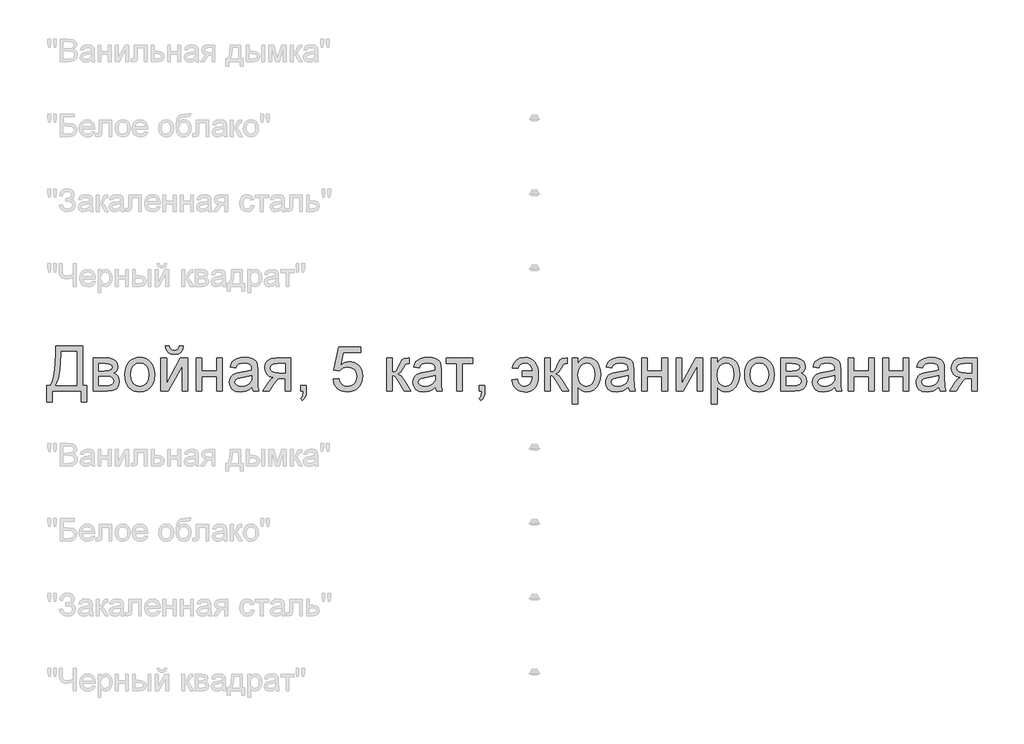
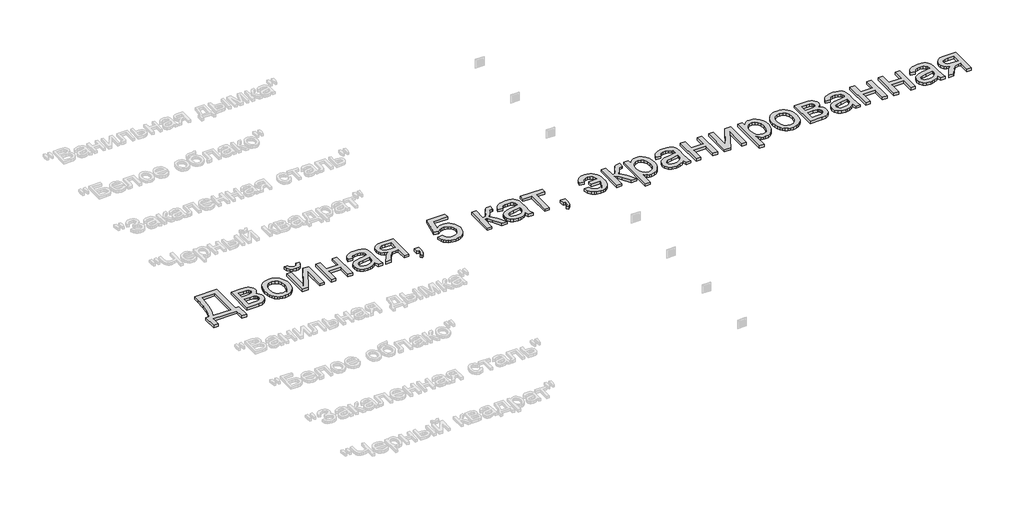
# One storey, part 168 of 168: 1 proxy.
"""IFC4 building model written with IfcOpenShell, lengths in millimetres."""

from ifc_helpers import new_model, si_unit, origin, origin_with_axes, place, context, project, spatial, polyline, outline, extrude, element, save

model = new_model("IFC4")

# Units and contexts
model_context = context("Model", 3, world=origin())
ifc_project = project(units=[si_unit("LENGTHUNIT", "METRE", prefix="MILLI")], contexts=[model_context])

# Site, building, storey
site = spatial("IfcSite", under=ifc_project)
building = spatial("IfcBuilding", under=site)
storey = spatial("IfcBuildingStorey", under=building, Name="Этаж 01", Elevation=0.0)

# Proxy
placement = place(None, origin())
element("IfcBuildingElementProxy", 1, Name="300 мм Arial 2", ObjectType="300 мм Arial 2", at=placement, inside=storey, context=model_context, shape_type="SweptSolid", body=[
    extrude(outline(polyline([(77327.3478389, -11147.0367511), (77506.2856413, -11147.0367511), (77506.2856413, -11410.7345653), (77534.5389786, -11410.7345653), (77534.5389786, -11519.0390246), (77496.8678623, -11519.0390246), (77496.8678623, -11448.4056816), (77303.8033912, -11448.4056816), (77303.8033912, -11519.0390246), (77266.1322749, -11519.0390246), (77266.1322749, -11410.7345653), (77289.6767226, -11410.7345653), (77306.157836, -11376.5629264), (77317.9300598, -11328.4945452), (77324.9933941, -11266.5294217), (77327.3478389, -11190.6675557), (77327.3478389, -11147.0367511)]), holes=[polyline([(77468.614525, -11184.7078674), (77365.0189552, -11184.7078674), (77365.0189552, -11199.8646056), (77357.3670097, -11303.0922935), (77346.0362442, -11362.744359), (77327.3478389, -11410.7345653), (77468.614525, -11410.7345653), (77468.614525, -11184.7078674)])]), origin_with_axes(), (0.0, 0.0, 1.0), 20.0),
    extrude(outline(polyline([(77576.9189844, -11227.0878733), (77659.9131625, -11227.0878733), (77686.5938042, -11228.3478691), (77705.4201653, -11232.1278566), (77719.2709224, -11239.2647673), (77731.0247522, -11250.5955328), (77739.0537767, -11265.3567978), (77741.7301183, -11282.7852073), (77740.1114375, -11296.8291025), (77735.2553951, -11308.9416172), (77727.1435971, -11319.1779337), (77715.7576494, -11327.5932344), (77729.700377, -11335.4199238), (77741.0679307, -11348.0106851), (77748.6279057, -11364.3722368), (77751.1478973, -11383.5112976), (77744.7651447, -11412.2244873), (77729.5900124, -11432.439603), (77705.5673181, -11444.4141619), (77672.6418796, -11448.4056816), (77576.9189844, -11448.4056816), (77576.9189844, -11227.0878733)]), holes=[polyline([(77614.5901007, -11311.847885), (77651.8197586, -11311.847885), (77682.5379052, -11309.9348986), (77697.4739142, -11302.2829531), (77702.41273, -11295.9553828), (77704.0590019, -11288.4505901), (77701.1711283, -11277.2117951), (77692.5075073, -11269.9829139), (77676.8541284, -11266.0649707), (77652.996981, -11264.7589896), (77614.5901007, -11264.7589896), (77614.5901007, -11311.847885)]), polyline([(77614.5901007, -11410.7345653), (77660.7960793, -11410.7345653), (77685.9776019, -11409.033111), (77701.7781336, -11403.9287484), (77710.2578136, -11394.648925), (77713.476781, -11380.4210889), (77711.8672973, -11370.9941127), (77707.0388461, -11362.2845065), (77699.6260239, -11355.4694925), (77690.2634271, -11351.7262932), (77657.1172594, -11349.5190013), (77614.5901007, -11349.5190013), (77614.5901007, -11410.7345653)])]), origin_with_axes(), (0.0, 0.0, 1.0), 20.0),
    extrude(outline(polyline([(77788.8190136, -11337.7467774), (77790.8561602, -11309.0841715), (77796.9675998, -11284.385494), (77807.1533326, -11263.6507451), (77821.4133584, -11246.8799246), (77835.7699533, -11236.160763), (77851.6164702, -11228.504219), (77868.9529092, -11223.9102925), (77887.7792703, -11222.3789837), (77908.5623038, -11224.2436856), (77927.354176, -11229.8377912), (77944.1548868, -11239.1613005), (77958.9644364, -11252.2142135), (77971.0516592, -11268.5550719), (77979.6853898, -11287.7424172), (77984.8656281, -11309.7762495), (77986.5923742, -11334.6565687), (77983.5389537, -11372.7139611), (77974.378692, -11401.6846682), (77959.3783037, -11423.3805088), (77938.8045031, -11439.6133019), (77914.3679415, -11449.7392538), (77887.7792703, -11453.1145711), (77866.6927342, -11451.256767), (77847.7261181, -11445.6833548), (77830.879422, -11436.3943344), (77816.1526459, -11423.3897059), (77804.1941818, -11406.8901984), (77795.6524217, -11387.1165412), (77790.5273657, -11364.0687342), (77788.8190136, -11337.7467774)]), holes=[polyline([(77826.4901299, -11337.673201), (77830.8495316, -11371.7666649), (77843.9277365, -11396.0560737), (77863.6094233, -11410.5966095), (77887.7792703, -11415.4434548), (77911.8387528, -11410.5690184), (77931.4836514, -11395.9457091), (77944.5618563, -11371.3344036), (77948.9212579, -11336.4959786), (77944.5342651, -11303.3957961), (77931.3732868, -11279.4374812), (77911.7007971, -11264.8969453), (77887.7792703, -11260.0501), (77863.6094233, -11264.8785512), (77843.9277365, -11279.3639048), (77830.8495316, -11303.5981312), (77826.4901299, -11337.673201)])]), origin_with_axes(), (0.0, 0.0, 1.0), 20.0),
    extrude(outline(polyline([(78028.9723801, -11227.0878733), (78066.6434964, -11227.0878733), (78066.6434964, -11395.8721327), (78159.2026064, -11227.0878733), (78207.9101825, -11227.0878733), (78207.9101825, -11448.4056816), (78170.2390662, -11448.4056816), (78170.2390662, -11280.6514918), (78078.2685674, -11448.4056816), (78028.9723801, -11448.4056816), (78028.9723801, -11227.0878733)])), origin_with_axes(), (0.0, 0.0, 1.0), 20.0),
    extrude(outline(polyline([(78151.4035081, -11147.0367511), (78179.6568453, -11147.0367511), (78173.5775953, -11171.160613), (78161.3731102, -11188.9385104), (78143.5952127, -11199.8921968), (78120.7957261, -11203.5434256), (78096.0556619, -11199.9197879), (78076.8706159, -11189.048875), (78063.7556227, -11171.2985687), (78057.2257173, -11147.0367511), (78085.4790545, -11147.0367511), (78089.4521801, -11159.4435714), (78096.074056, -11168.2635422), (78105.3814705, -11173.5334518), (78117.4112117, -11175.2900883), (78130.9860574, -11173.5886341), (78140.8085066, -11168.4842714), (78147.4303825, -11159.7194829), (78151.4035081, -11147.0367511)])), origin_with_axes(), (0.0, 0.0, 1.0), 20.0),
    extrude(outline(polyline([(78264.416857, -11227.0878733), (78302.0879733, -11227.0878733), (78302.0879733, -11311.847885), (78400.9746536, -11311.847885), (78400.9746536, -11227.0878733), (78438.6457699, -11227.0878733), (78438.6457699, -11448.4056816), (78400.9746536, -11448.4056816), (78400.9746536, -11349.5190013), (78302.0879733, -11349.5190013), (78302.0879733, -11448.4056816), (78264.416857, -11448.4056816), (78264.416857, -11227.0878733)])), origin_with_axes(), (0.0, 0.0, 1.0), 20.0),
    extrude(outline(polyline([(78636.4191305, -11420.1523443), (78618.4205039, -11435.584994), (78599.8884484, -11445.6833548), (78580.3998997, -11451.256767), (78559.5317935, -11453.1145711), (78528.0502918, -11448.6448049), (78504.8277408, -11435.2355061), (78490.5079342, -11414.8732377), (78485.7346653, -11389.5445623), (78487.5372871, -11373.9279716), (78492.9451524, -11359.7461207), (78501.2868766, -11347.6060149), (78511.8910752, -11338.1146594), (78538.2682142, -11325.7538244), (78570.862559, -11320.0884417), (78609.3798039, -11314.1287533), (78636.1984013, -11307.1389954), (78636.4191305, -11298.7512859), (78633.8255625, -11281.9390788), (78626.0448583, -11270.9394071), (78608.6440399, -11262.7724268), (78584.4006164, -11260.0501), (78561.9598147, -11261.8619189), (78546.2880417, -11267.2973753), (78535.6010697, -11277.3497509), (78528.1146711, -11293.0123268), (78490.4435548, -11288.3034373), (78496.9826573, -11267.7020455), (78506.7407272, -11251.5152378), (78520.6282725, -11239.1360086), (78539.5558012, -11229.9573528), (78562.7047757, -11224.273576), (78589.2566587, -11222.3789837), (78614.7232899, -11224.0528468), (78634.9108143, -11229.074436), (78650.1319319, -11236.625214), (78660.6993422, -11245.8866432), (78667.7074942, -11257.3369703), (78672.2508369, -11271.4544419), (78674.0902468, -11304.4166687), (78674.0902468, -11351.2848348), (78676.0032332, -11416.7310418), (78683.5080259, -11448.4056816), (78645.8369096, -11448.4056816), (78636.4191305, -11420.1523443)]), holes=[polyline([(78636.4191305, -11344.8101117), (78575.6450249, -11356.3616064), (78543.2346211, -11362.4684475), (78528.5561295, -11372.4012614), (78523.4057816, -11386.895812), (78526.2108818, -11398.0978187), (78534.6261825, -11407.2764745), (78548.4677425, -11413.4017097), (78567.551621, -11415.4434548), (78587.7851308, -11413.1901776), (78605.6641957, -11406.4303459), (78620.1587463, -11396.4699409), (78630.238713, -11384.6149436), (78634.7084792, -11372.4012614), (78636.1984013, -11355.4786896), (78636.4191305, -11344.8101117)])]), origin_with_axes(), (0.0, 0.0, 1.0), 20.0),
    extrude(outline(polyline([(78895.4080551, -11227.0878733), (78895.4080551, -11448.4056816), (78857.7369388, -11448.4056816), (78857.7369388, -11363.6456699), (78837.2091235, -11363.6456699), (78809.2500919, -11368.4281358), (78798.0848733, -11378.8575904), (78782.9833174, -11400.5810222), (78752.9641466, -11448.4056816), (78709.4069184, -11448.4056816), (78747.2251875, -11387.9258816), (78763.9270301, -11366.2208438), (78779.3044975, -11356.5823356), (78753.5527578, -11348.6912668), (78735.4529636, -11333.7000755), (78724.7475976, -11313.7608713), (78721.1791422, -11291.025764), (78726.0535786, -11265.2372362), (78740.676888, -11244.8197854), (78764.5340353, -11231.5208513), (78797.109986, -11227.0878733), (78895.4080551, -11227.0878733)]), holes=[polyline([(78857.7369388, -11264.7589896), (78808.0728695, -11264.7589896), (78782.4222974, -11266.9386904), (78767.8633674, -11273.4777929), (78761.1035357, -11282.9415572), (78758.8502585, -11293.8952436), (78762.1703935, -11308.2518385), (78772.1307985, -11318.2122435), (78790.5340954, -11324.033976), (78819.1829057, -11325.9745536), (78857.7369388, -11325.9745536), (78857.7369388, -11264.7589896)])]), origin_with_axes(), (0.0, 0.0, 1.0), 20.0),
    extrude(outline(polyline([(78961.3325087, -11448.4056816), (78961.3325087, -11410.7345653), (78999.003625, -11410.7345653), (78999.003625, -11448.4056816), (78997.3113678, -11469.9543694), (78992.2345963, -11486.9229265), (78983.4790048, -11499.936752), (78970.7502877, -11509.6212456), (78961.3325087, -11495.494577), (78969.499489, -11488.6703659), (78975.1648717, -11479.2341928), (78980.0944904, -11448.4056816), (78961.3325087, -11448.4056816)])), origin_with_axes(), (0.0, 0.0, 1.0), 20.0),
    extrude(outline(polyline([(79177.9414274, -11368.3545594), (79215.6125437, -11363.6456699), (79222.5287252, -11386.2612155), (79234.5952547, -11402.4572204), (79251.7569498, -11412.1968962), (79273.9586282, -11415.4434548), (79300.9611666, -11410.9277033), (79321.1946763, -11397.3804488), (79333.8314229, -11376.3651899), (79338.0436717, -11349.4454249), (79334.0981373, -11324.0983554), (79322.2615341, -11304.7109743), (79302.4418916, -11292.4053215), (79274.5472394, -11288.3034373), (79256.2727012, -11289.9405121), (79241.474648, -11294.8517368), (79220.3214333, -11311.847885), (79182.650317, -11307.1389954), (79215.6125437, -11151.7456407), (79361.5881194, -11151.7456407), (79361.5881194, -11189.416757), (79246.0731729, -11189.416757), (79229.9599415, -11272.4109351), (79256.8705095, -11256.0769745), (79285.0686644, -11250.632321), (79303.4144797, -11252.3199796), (79320.2657743, -11257.3829556), (79335.6225483, -11265.8212488), (79349.4848018, -11277.6348594), (79360.9604208, -11292.1018189), (79369.1572915, -11308.5001588), (79374.0754139, -11326.8298792), (79375.714788, -11347.0909801), (79369.810282, -11384.7620964), (79362.4296495, -11401.5559095), (79352.0967639, -11416.9885592), (79336.443385, -11432.7936894), (79318.178044, -11444.0830681), (79297.3007408, -11450.8566954), (79273.8114754, -11453.1145711), (79236.8117437, -11447.3112326), (79221.1330729, -11440.0570595), (79207.3351988, -11429.9012172), (79195.8549813, -11417.3495434), (79187.1292803, -11402.9078758), (79177.9414274, -11368.3545594)])), origin_with_axes(), (0.0, 0.0, 1.0), 20.0),
    extrude(outline(polyline([(79535.8170323, -11227.0878733), (79573.4881486, -11227.0878733), (79573.4881486, -11321.265664), (79588.8104337, -11319.5734069), (79598.7248535, -11314.4966353), (79607.4988391, -11301.2528835), (79619.3998216, -11275.0596854), (79636.5799108, -11241.0306009), (79651.736649, -11229.9573528), (79679.2910105, -11227.0878733), (79686.5014976, -11227.0878733), (79686.5014976, -11264.9797188), (79676.3479545, -11264.7589896), (79657.9538547, -11268.7321151), (79645.0044085, -11293.5273616), (79629.8108821, -11320.345959), (79608.5105146, -11333.4793463), (79620.4482853, -11338.7814455), (79632.2756915, -11348.1394438), (79655.59941, -11379.0231373), (79695.9192766, -11448.4056816), (79653.0978124, -11448.4056816), (79613.5872861, -11380.4946653), (79593.7216584, -11351.7630814), (79584.432638, -11346.5483542), (79573.4881486, -11344.8101117), (79573.4881486, -11448.4056816), (79535.8170323, -11448.4056816), (79535.8170323, -11227.0878733)])), origin_with_axes(), (0.0, 0.0, 1.0), 20.0),
    extrude(outline(polyline([(79860.7304105, -11420.1523443), (79842.7317839, -11435.584994), (79824.1997284, -11445.6833548), (79804.7111797, -11451.256767), (79783.8430735, -11453.1145711), (79752.3615717, -11448.6448049), (79729.1390208, -11435.2355061), (79714.8192141, -11414.8732377), (79710.0459452, -11389.5445623), (79711.848567, -11373.9279716), (79717.2564324, -11359.7461207), (79725.5981566, -11347.6060149), (79736.2023551, -11338.1146594), (79762.5794942, -11325.7538244), (79795.1738389, -11320.0884417), (79833.6910838, -11314.1287533), (79860.5096813, -11307.1389954), (79860.7304105, -11298.7512859), (79858.1368424, -11281.9390788), (79850.3561382, -11270.9394071), (79832.9553198, -11262.7724268), (79808.7118964, -11260.0501), (79786.2710946, -11261.8619189), (79770.5993217, -11267.2973753), (79759.9123497, -11277.3497509), (79752.4259511, -11293.0123268), (79714.7548348, -11288.3034373), (79721.2939373, -11267.7020455), (79731.0520072, -11251.5152378), (79744.9395525, -11239.1360086), (79763.8670811, -11229.9573528), (79787.0160557, -11224.273576), (79813.5679387, -11222.3789837), (79839.0345698, -11224.0528468), (79859.2220943, -11229.074436), (79874.4432118, -11236.625214), (79885.0106222, -11245.8866432), (79892.0187742, -11257.3369703), (79896.5621168, -11271.4544419), (79898.4015268, -11304.4166687), (79898.4015268, -11351.2848348), (79900.3145132, -11416.7310418), (79907.8193059, -11448.4056816), (79870.1481895, -11448.4056816), (79860.7304105, -11420.1523443)]), holes=[polyline([(79860.7304105, -11344.8101117), (79799.9563049, -11356.3616064), (79767.5459011, -11362.4684475), (79752.8674095, -11372.4012614), (79747.7170616, -11386.895812), (79750.5221618, -11398.0978187), (79758.9374624, -11407.2764745), (79772.7790225, -11413.4017097), (79791.862901, -11415.4434548), (79812.0964107, -11413.1901776), (79829.9754757, -11406.4303459), (79844.4700263, -11396.4699409), (79854.549993, -11384.6149436), (79859.0197592, -11372.4012614), (79860.5096813, -11355.4786896), (79860.7304105, -11344.8101117)])]), origin_with_axes(), (0.0, 0.0, 1.0), 20.0),
    extrude(outline(polyline([(79931.3637535, -11227.0878733), (80110.301556, -11227.0878733), (80110.301556, -11264.7589896), (80039.6682129, -11264.7589896), (80039.6682129, -11448.4056816), (80001.9970966, -11448.4056816), (80001.9970966, -11264.7589896), (79931.3637535, -11264.7589896), (79931.3637535, -11227.0878733)])), origin_with_axes(), (0.0, 0.0, 1.0), 20.0),
    extrude(outline(polyline([(80152.6815618, -11448.4056816), (80152.6815618, -11410.7345653), (80190.3526782, -11410.7345653), (80190.3526782, -11448.4056816), (80188.660421, -11469.9543694), (80183.5836494, -11486.9229265), (80174.828058, -11499.936752), (80162.0993409, -11509.6212456), (80152.6815618, -11495.494577), (80160.8485421, -11488.6703659), (80166.5139249, -11479.2341928), (80171.4435436, -11448.4056816), (80152.6815618, -11448.4056816)])), origin_with_axes(), (0.0, 0.0, 1.0), 20.0),
    extrude(outline(polyline([(80439.9238237, -11311.847885), (80510.5571668, -11311.847885), (80504.7538283, -11290.9797788), (80493.5242304, -11274.4342861), (80477.604137, -11263.6461465), (80457.7293122, -11260.0501), (80440.5860113, -11262.4045448), (80427.1951066, -11269.4678791), (80417.5565984, -11281.240103), (80411.6704864, -11297.7212163), (80373.9993701, -11293.0123268), (80382.7825528, -11264.7313984), (80399.8614744, -11242.1342469), (80424.3716123, -11227.3177995), (80455.4484439, -11222.3789837), (80475.8038145, -11224.3011672), (80493.9013094, -11230.0677174), (80509.7409286, -11239.6786346), (80523.322672, -11253.1339185), (80534.2188768, -11269.9553228), (80542.0018803, -11289.6646007), (80546.6716824, -11312.2617522), (80548.2282831, -11337.7467774), (80547.2373009, -11362.9558911), (80543.0871322, -11385.608225), (80535.7777768, -11405.703779), (80525.3092348, -11423.2425531), (80512.0217969, -11437.3048424), (80496.2557542, -11446.9709418), (80478.0111065, -11452.2408514), (80457.2878539, -11453.1145711), (80423.8841687, -11447.6055382), (80409.8310765, -11440.7192471), (80397.5438178, -11431.0784396), (80379.0761417, -11405.5566262), (80369.2904806, -11373.063449), (80406.9615969, -11368.3545594), (80412.9120882, -11388.9559511), (80423.1851929, -11403.671231), (80437.7809111, -11412.5003988), (80456.6992427, -11415.4434548), (80477.9812161, -11411.3231765), (80494.002477, -11398.9623414), (80504.8366017, -11378.3609497), (80510.5571668, -11349.5190013), (80439.9238237, -11349.5190013), (80439.9238237, -11311.847885)])), origin_with_axes(), (0.0, 0.0, 1.0), 20.0),
    extrude(outline(polyline([(80590.6082889, -11227.0878733), (80628.2794052, -11227.0878733), (80628.2794052, -11321.265664), (80643.6016903, -11319.5734069), (80653.5161101, -11314.4966353), (80662.2900957, -11301.2528835), (80674.1910782, -11275.0596854), (80691.3711674, -11241.0306009), (80706.5279056, -11229.9573528), (80734.082267, -11227.0878733), (80741.2927541, -11227.0878733), (80741.2927541, -11264.9797188), (80731.1392111, -11264.7589896), (80712.7451113, -11268.7321151), (80699.7956651, -11293.5273616), (80684.6021387, -11320.345959), (80663.3017712, -11333.4793463), (80675.2395419, -11338.7814455), (80687.066948, -11348.1394438), (80710.3906665, -11379.0231373), (80750.7105332, -11448.4056816), (80707.889069, -11448.4056816), (80668.3785427, -11380.4946653), (80648.5129149, -11351.7630814), (80639.2238946, -11346.5483542), (80628.2794052, -11344.8101117), (80628.2794052, -11448.4056816), (80590.6082889, -11448.4056816), (80590.6082889, -11227.0878733)])), origin_with_axes(), (0.0, 0.0, 1.0), 20.0),
    extrude(outline(polyline([(80774.2549809, -11533.1656933), (80774.2549809, -11227.0878733), (80811.9260972, -11227.0878733), (80811.9260972, -11264.0232256), (80824.2133558, -11245.8038698), (80837.9721425, -11232.7900442), (80854.0117975, -11224.9817488), (80873.1416612, -11222.3789837), (80898.6174894, -11226.0210155), (80920.8927442, -11236.9471107), (80939.0293265, -11254.4950819), (80952.0891374, -11278.0027414), (80959.9802062, -11305.7594379), (80962.6105624, -11336.0545202), (80959.6399153, -11368.271786), (80950.727974, -11397.0861432), (80936.159847, -11421.0352611), (80916.2206428, -11438.6568087), (80892.9980919, -11449.5001305), (80868.5799245, -11453.1145711), (80851.2618795, -11450.695747), (80835.8016387, -11443.4392746), (80822.5670839, -11432.4855882), (80811.9260972, -11418.975122), (80811.9260972, -11533.1656933), (80774.2549809, -11533.1656933)]), holes=[polyline([(80811.9260972, -11339.512611), (80816.0003903, -11373.2841782), (80828.2232696, -11396.9022022), (80846.2586844, -11410.8081417), (80867.7705841, -11415.4434548), (80889.6319716, -11410.6425948), (80908.1272389, -11396.2400147), (80920.7363943, -11371.7574679), (80924.9394461, -11336.7167078), (80920.8375619, -11303.1290817), (80908.5319091, -11279.1799638), (80890.5240855, -11264.832566), (80869.3156884, -11260.0501), (80848.024518, -11265.1360686), (80829.3269156, -11280.3939744), (80816.2763018, -11305.3455707), (80811.9260972, -11339.512611)])]), origin_with_axes(), (0.0, 0.0, 1.0), 20.0),
    extrude(outline(polyline([(81146.2572544, -11420.1523443), (81128.2586278, -11435.584994), (81109.7265723, -11445.6833548), (81090.2380236, -11451.256767), (81069.3699174, -11453.1145711), (81037.8884157, -11448.6448049), (81014.6658647, -11435.2355061), (81000.3460581, -11414.8732377), (80995.5727892, -11389.5445623), (80997.375411, -11373.9279716), (81002.7832763, -11359.7461207), (81011.1250005, -11347.6060149), (81021.7291991, -11338.1146594), (81048.1063381, -11325.7538244), (81080.7006829, -11320.0884417), (81119.2179278, -11314.1287533), (81146.0365252, -11307.1389954), (81146.2572544, -11298.7512859), (81143.6636864, -11281.9390788), (81135.8829822, -11270.9394071), (81118.4821638, -11262.7724268), (81094.2387403, -11260.0501), (81071.7979386, -11261.8619189), (81056.1261656, -11267.2973753), (81045.4391936, -11277.3497509), (81037.952795, -11293.0123268), (81000.2816787, -11288.3034373), (81006.8207812, -11267.7020455), (81016.5788511, -11251.5152378), (81030.4663964, -11239.1360086), (81049.3939251, -11229.9573528), (81072.5428996, -11224.273576), (81099.0947826, -11222.3789837), (81124.5614138, -11224.0528468), (81144.7489382, -11229.074436), (81159.9700558, -11236.625214), (81170.5374661, -11245.8866432), (81177.5456181, -11257.3369703), (81182.0889607, -11271.4544419), (81183.9283707, -11304.4166687), (81183.9283707, -11351.2848348), (81185.8413571, -11416.7310418), (81193.3461498, -11448.4056816), (81155.6750335, -11448.4056816), (81146.2572544, -11420.1523443)]), holes=[polyline([(81146.2572544, -11344.8101117), (81085.4831488, -11356.3616064), (81053.072745, -11362.4684475), (81038.3942534, -11372.4012614), (81033.2439055, -11386.895812), (81036.0490057, -11398.0978187), (81044.4643064, -11407.2764745), (81058.3058664, -11413.4017097), (81077.3897449, -11415.4434548), (81097.6232547, -11413.1901776), (81115.5023196, -11406.4303459), (81129.9968702, -11396.4699409), (81140.0768369, -11384.6149436), (81144.5466031, -11372.4012614), (81146.0365252, -11355.4786896), (81146.2572544, -11344.8101117)])]), origin_with_axes(), (0.0, 0.0, 1.0), 20.0),
    extrude(outline(polyline([(81235.7261556, -11227.0878733), (81273.397272, -11227.0878733), (81273.397272, -11311.847885), (81372.2839523, -11311.847885), (81372.2839523, -11227.0878733), (81409.9550686, -11227.0878733), (81409.9550686, -11448.4056816), (81372.2839523, -11448.4056816), (81372.2839523, -11349.5190013), (81273.397272, -11349.5190013), (81273.397272, -11448.4056816), (81235.7261556, -11448.4056816), (81235.7261556, -11227.0878733)])), origin_with_axes(), (0.0, 0.0, 1.0), 20.0),
    extrude(outline(polyline([(81466.461743, -11227.0878733), (81504.1328593, -11227.0878733), (81504.1328593, -11395.8721327), (81596.6919693, -11227.0878733), (81645.3995455, -11227.0878733), (81645.3995455, -11448.4056816), (81607.7284292, -11448.4056816), (81607.7284292, -11280.6514918), (81515.7579304, -11448.4056816), (81466.461743, -11448.4056816), (81466.461743, -11227.0878733)])), origin_with_axes(), (0.0, 0.0, 1.0), 20.0),
    extrude(outline(polyline([(81701.9062199, -11533.1656933), (81701.9062199, -11227.0878733), (81739.5773362, -11227.0878733), (81739.5773362, -11264.0232256), (81751.8645949, -11245.8038698), (81765.6233815, -11232.7900442), (81781.6630365, -11224.9817488), (81800.7929002, -11222.3789837), (81826.2687284, -11226.0210155), (81848.5439832, -11236.9471107), (81866.6805656, -11254.4950819), (81879.7403764, -11278.0027414), (81887.6314452, -11305.7594379), (81890.2618015, -11336.0545202), (81887.2911544, -11368.271786), (81878.379213, -11397.0861432), (81863.811086, -11421.0352611), (81843.8718819, -11438.6568087), (81820.6493309, -11449.5001305), (81796.2311635, -11453.1145711), (81778.9131186, -11450.695747), (81763.4528777, -11443.4392746), (81750.218323, -11432.4855882), (81739.5773362, -11418.975122), (81739.5773362, -11533.1656933), (81701.9062199, -11533.1656933)]), holes=[polyline([(81739.5773362, -11339.512611), (81743.6516293, -11373.2841782), (81755.8745086, -11396.9022022), (81773.9099234, -11410.8081417), (81795.4218231, -11415.4434548), (81817.2832107, -11410.6425948), (81835.778478, -11396.2400147), (81848.3876334, -11371.7574679), (81852.5906852, -11336.7167078), (81848.4888009, -11303.1290817), (81836.1831482, -11279.1799638), (81818.1753245, -11264.832566), (81796.9669275, -11260.0501), (81775.675757, -11265.1360686), (81756.9781546, -11280.3939744), (81743.9275408, -11305.3455707), (81739.5773362, -11339.512611)])]), origin_with_axes(), (0.0, 0.0, 1.0), 20.0),
    extrude(outline(polyline([(81923.2240282, -11337.7467774), (81925.2611748, -11309.0841715), (81931.3726144, -11284.385494), (81941.5583472, -11263.6507451), (81955.818373, -11246.8799246), (81970.1749679, -11236.160763), (81986.0214848, -11228.504219), (82003.3579238, -11223.9102925), (82022.1842849, -11222.3789837), (82042.9673184, -11224.2436856), (82061.7591906, -11229.8377912), (82078.5599014, -11239.1613005), (82093.369451, -11252.2142135), (82105.4566738, -11268.5550719), (82114.0904044, -11287.7424172), (82119.2706427, -11309.7762495), (82120.9973888, -11334.6565687), (82117.9439683, -11372.7139611), (82108.7837066, -11401.6846682), (82093.7833182, -11423.3805088), (82073.2095177, -11439.6133019), (82048.7729561, -11449.7392538), (82022.1842849, -11453.1145711), (82001.0977488, -11451.256767), (81982.1311327, -11445.6833548), (81965.2844366, -11436.3943344), (81950.5576605, -11423.3897059), (81938.5991964, -11406.8901984), (81930.0574363, -11387.1165412), (81924.9323802, -11364.0687342), (81923.2240282, -11337.7467774)]), holes=[polyline([(81960.8951445, -11337.673201), (81965.2545462, -11371.7666649), (81978.3327511, -11396.0560737), (81998.0144379, -11410.5966095), (82022.1842849, -11415.4434548), (82046.2437674, -11410.5690184), (82065.888666, -11395.9457091), (82078.9668709, -11371.3344036), (82083.3262725, -11336.4959786), (82078.9392797, -11303.3957961), (82065.7783014, -11279.4374812), (82046.1058117, -11264.8969453), (82022.1842849, -11260.0501), (81998.0144379, -11264.8785512), (81978.3327511, -11279.3639048), (81965.2545462, -11303.5981312), (81960.8951445, -11337.673201)])]), origin_with_axes(), (0.0, 0.0, 1.0), 20.0),
    extrude(outline(polyline([(82163.3773947, -11227.0878733), (82246.3715728, -11227.0878733), (82273.0522145, -11228.3478691), (82291.8785756, -11232.1278566), (82305.7293327, -11239.2647673), (82317.4831625, -11250.5955328), (82325.512187, -11265.3567978), (82328.1885285, -11282.7852073), (82326.5698477, -11296.8291025), (82321.7138054, -11308.9416172), (82313.6020074, -11319.1779337), (82302.2160597, -11327.5932344), (82316.1587873, -11335.4199238), (82327.5263409, -11348.0106851), (82335.0863159, -11364.3722368), (82337.6063076, -11383.5112976), (82331.223555, -11412.2244873), (82316.0484227, -11432.439603), (82292.0257284, -11444.4141619), (82259.1002898, -11448.4056816), (82163.3773947, -11448.4056816), (82163.3773947, -11227.0878733)]), holes=[polyline([(82201.048511, -11410.7345653), (82247.2544896, -11410.7345653), (82272.4360122, -11409.033111), (82288.2365438, -11403.9287484), (82296.7162238, -11394.648925), (82299.9351913, -11380.4210889), (82298.3257076, -11370.9941127), (82293.4972564, -11362.2845065), (82286.0844342, -11355.4694925), (82276.7218374, -11351.7262932), (82243.5756696, -11349.5190013), (82201.048511, -11349.5190013), (82201.048511, -11410.7345653)]), polyline([(82201.048511, -11311.847885), (82238.2781689, -11311.847885), (82268.9963155, -11309.9348986), (82283.9323245, -11302.2829531), (82288.8711403, -11295.9553828), (82290.5174122, -11288.4505901), (82287.6295386, -11277.2117951), (82278.9659176, -11269.9829139), (82263.3125387, -11266.0649707), (82239.4553913, -11264.7589896), (82201.048511, -11264.7589896), (82201.048511, -11311.847885)])]), origin_with_axes(), (0.0, 0.0, 1.0), 20.0),
    extrude(outline(polyline([(82525.9618891, -11420.1523443), (82507.9632625, -11435.584994), (82489.431207, -11445.6833548), (82469.9426583, -11451.256767), (82449.0745521, -11453.1145711), (82417.5930504, -11448.6448049), (82394.3704995, -11435.2355061), (82380.0506928, -11414.8732377), (82375.2774239, -11389.5445623), (82377.0800457, -11373.9279716), (82382.487911, -11359.7461207), (82390.8296353, -11347.6060149), (82401.4338338, -11338.1146594), (82427.8109728, -11325.7538244), (82460.4053176, -11320.0884417), (82498.9225625, -11314.1287533), (82525.7411599, -11307.1389954), (82525.9618891, -11298.7512859), (82523.3683211, -11281.9390788), (82515.5876169, -11270.9394071), (82498.1867985, -11262.7724268), (82473.943375, -11260.0501), (82451.5025733, -11261.8619189), (82435.8308003, -11267.2973753), (82425.1438284, -11277.3497509), (82417.6574297, -11293.0123268), (82379.9863134, -11288.3034373), (82386.5254159, -11267.7020455), (82396.2834858, -11251.5152378), (82410.1710311, -11239.1360086), (82429.0985598, -11229.9573528), (82452.2475343, -11224.273576), (82478.7994173, -11222.3789837), (82504.2660485, -11224.0528468), (82524.4535729, -11229.074436), (82539.6746905, -11236.625214), (82550.2421008, -11245.8866432), (82557.2502528, -11257.3369703), (82561.7935955, -11271.4544419), (82563.6330054, -11304.4166687), (82563.6330054, -11351.2848348), (82565.5459918, -11416.7310418), (82573.0507845, -11448.4056816), (82535.3796682, -11448.4056816), (82525.9618891, -11420.1523443)]), holes=[polyline([(82525.9618891, -11344.8101117), (82465.1877835, -11356.3616064), (82432.7773798, -11362.4684475), (82418.0988881, -11372.4012614), (82412.9485402, -11386.895812), (82415.7536404, -11398.0978187), (82424.1689411, -11407.2764745), (82438.0105011, -11413.4017097), (82457.0943796, -11415.4434548), (82477.3278894, -11413.1901776), (82495.2069543, -11406.4303459), (82509.7015049, -11396.4699409), (82519.7814716, -11384.6149436), (82524.2512379, -11372.4012614), (82525.7411599, -11355.4786896), (82525.9618891, -11344.8101117)])]), origin_with_axes(), (0.0, 0.0, 1.0), 20.0),
    extrude(outline(polyline([(82615.4307904, -11227.0878733), (82653.1019067, -11227.0878733), (82653.1019067, -11311.847885), (82751.988587, -11311.847885), (82751.988587, -11227.0878733), (82789.6597033, -11227.0878733), (82789.6597033, -11448.4056816), (82751.988587, -11448.4056816), (82751.988587, -11349.5190013), (82653.1019067, -11349.5190013), (82653.1019067, -11448.4056816), (82615.4307904, -11448.4056816), (82615.4307904, -11227.0878733)])), origin_with_axes(), (0.0, 0.0, 1.0), 20.0),
    extrude(outline(polyline([(82846.1663777, -11227.0878733), (82883.837494, -11227.0878733), (82883.837494, -11311.847885), (82982.7241743, -11311.847885), (82982.7241743, -11227.0878733), (83020.3952906, -11227.0878733), (83020.3952906, -11448.4056816), (82982.7241743, -11448.4056816), (82982.7241743, -11349.5190013), (82883.837494, -11349.5190013), (82883.837494, -11448.4056816), (82846.1663777, -11448.4056816), (82846.1663777, -11227.0878733)])), origin_with_axes(), (0.0, 0.0, 1.0), 20.0),
    extrude(outline(polyline([(83218.1686513, -11420.1523443), (83200.1700246, -11435.584994), (83181.6379691, -11445.6833548), (83162.1494204, -11451.256767), (83141.2813143, -11453.1145711), (83109.7998125, -11448.6448049), (83086.5772616, -11435.2355061), (83072.2574549, -11414.8732377), (83067.484186, -11389.5445623), (83069.2868078, -11373.9279716), (83074.6946731, -11359.7461207), (83083.0363974, -11347.6060149), (83093.6405959, -11338.1146594), (83120.0177349, -11325.7538244), (83152.6120797, -11320.0884417), (83191.1293246, -11314.1287533), (83217.9479221, -11307.1389954), (83218.1686513, -11298.7512859), (83215.5750832, -11281.9390788), (83207.794379, -11270.9394071), (83190.3935606, -11262.7724268), (83166.1501371, -11260.0501), (83143.7093354, -11261.8619189), (83128.0375624, -11267.2973753), (83117.3505905, -11277.3497509), (83109.8641919, -11293.0123268), (83072.1930756, -11288.3034373), (83078.732178, -11267.7020455), (83088.490248, -11251.5152378), (83102.3777933, -11239.1360086), (83121.3053219, -11229.9573528), (83144.4542965, -11224.273576), (83171.0061795, -11222.3789837), (83196.4728106, -11224.0528468), (83216.6603351, -11229.074436), (83231.8814526, -11236.625214), (83242.4488629, -11245.8866432), (83249.4570149, -11257.3369703), (83254.0003576, -11271.4544419), (83255.8397676, -11304.4166687), (83255.8397676, -11351.2848348), (83257.7527539, -11416.7310418), (83265.2575466, -11448.4056816), (83227.5864303, -11448.4056816), (83218.1686513, -11420.1523443)]), holes=[polyline([(83218.1686513, -11344.8101117), (83157.3945457, -11356.3616064), (83124.9841419, -11362.4684475), (83110.3056503, -11372.4012614), (83105.1553023, -11386.895812), (83107.9604025, -11398.0978187), (83116.3757032, -11407.2764745), (83130.2172633, -11413.4017097), (83149.3011418, -11415.4434548), (83169.5346515, -11413.1901776), (83187.4137165, -11406.4303459), (83201.9082671, -11396.4699409), (83211.9882337, -11384.6149436), (83216.458, -11372.4012614), (83217.9479221, -11355.4786896), (83218.1686513, -11344.8101117)])]), origin_with_axes(), (0.0, 0.0, 1.0), 20.0),
    extrude(outline(polyline([(83477.1575759, -11227.0878733), (83477.1575759, -11448.4056816), (83439.4864596, -11448.4056816), (83439.4864596, -11363.6456699), (83418.9586442, -11363.6456699), (83390.9996126, -11368.4281358), (83379.834394, -11378.8575904), (83364.7328381, -11400.5810222), (83334.7136673, -11448.4056816), (83291.1564391, -11448.4056816), (83328.9747082, -11387.9258816), (83345.6765508, -11366.2208438), (83361.0540182, -11356.5823356), (83335.3022785, -11348.6912668), (83317.2024844, -11333.7000755), (83306.4971183, -11313.7608713), (83302.9286629, -11291.025764), (83307.8030994, -11265.2372362), (83322.4264087, -11244.8197854), (83346.2835561, -11231.5208513), (83378.8595067, -11227.0878733), (83477.1575759, -11227.0878733)]), holes=[polyline([(83439.4864596, -11264.7589896), (83389.8223902, -11264.7589896), (83364.1718181, -11266.9386904), (83349.6128881, -11273.4777929), (83342.8530565, -11282.9415572), (83340.5997792, -11293.8952436), (83343.9199143, -11308.2518385), (83353.8803193, -11318.2122435), (83372.2836161, -11324.033976), (83400.9324265, -11325.9745536), (83439.4864596, -11325.9745536), (83439.4864596, -11264.7589896)])]), origin_with_axes(), (0.0, 0.0, 1.0), 20.0),
])

save(model, "model.ifc")
